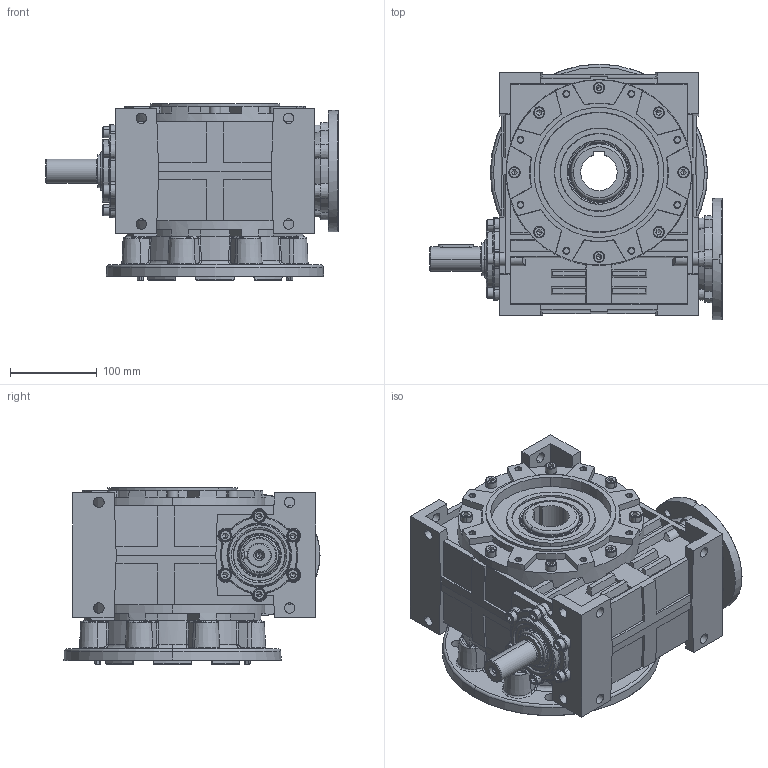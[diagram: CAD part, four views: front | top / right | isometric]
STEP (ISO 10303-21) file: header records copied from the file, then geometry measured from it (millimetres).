
FILE_DESCRIPTION (( 'STEP AP203' ), '1' );
FILE_NAME ('MR-100_140-24-WBS-K250_1-3D.STEP', '2023-09-29T06:04:49', ( '' ), ( '' ), 'SwSTEP 2.0', 'SolidWorks 2022', '' );
FILE_SCHEMA (( 'CONFIG_CONTROL_DESIGN' ));
Length unit declared in the file: millimetre
Products named in the file (1): MR-100_140-24-WBS-K250_1-3D
Bounding box: 337 x 295.57 x 204 mm (x, y, z)
Volume: 8299173.9 mm3; surface area: 588145.2 mm2
Topology: 1 solids, 47 shells, 2644 faces, 6500 edges, 3980 vertices
Faces by surface type: plane 991, cone 508, cylinder 428, bspline 392, torus 325
Entity records: 92573 total; most frequent: CARTESIAN_POINT 32481, ORIENTED_EDGE 12832, DIRECTION 12339, EDGE_CURVE 6416, AXIS2_PLACEMENT_3D 4951, VERTEX_POINT 3980, EDGE_LOOP 2852, CIRCLE 2698
